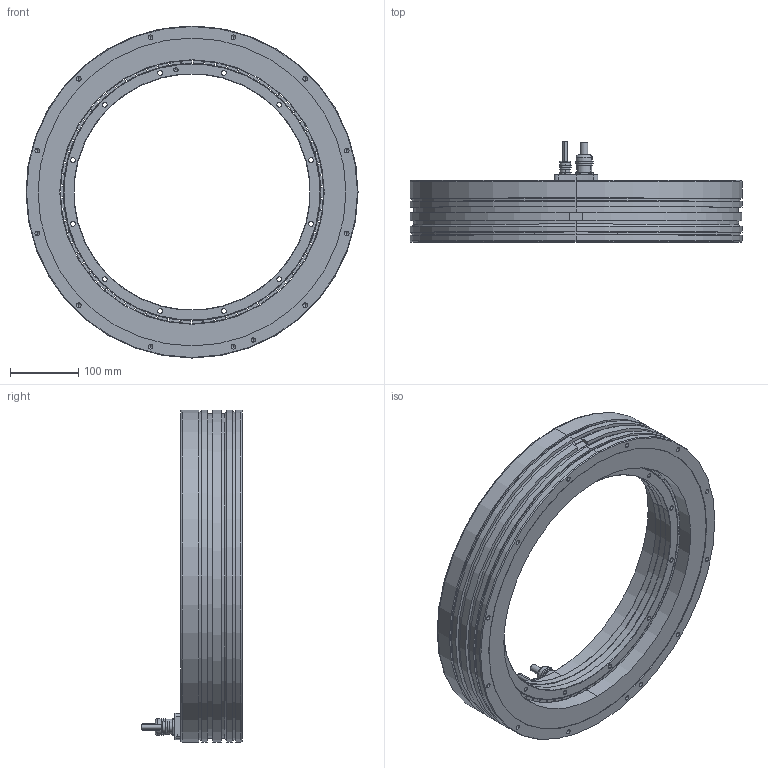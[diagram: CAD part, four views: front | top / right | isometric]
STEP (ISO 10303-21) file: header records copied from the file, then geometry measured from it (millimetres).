
FILE_DESCRIPTION (( 'STEP AP214' ), '1' );
FILE_NAME ('TORQUE KIT QMT LA 485-90-I-AX.STEP', '2025-10-02T13:25:45', ( '' ), ( '' ), 'SwSTEP 2.0', 'SolidWorks 2023', '' );
FILE_SCHEMA (( 'AUTOMOTIVE_DESIGN' ));
Length unit declared in the file: millimetre
Products named in the file (21): Cable Clamp; Housing; Cable; Stator; Rotor; Magnet; Cooling Ring; Resin; Cable Gland; Rotor Ring; Cable Connection; TORQUE KIT QMT LA 485-90-I-AX; Rotor Glued; Housing-BO; Screw
Assembly tree (90 placements, depth 6):
  TORQUE KIT QMT LA 485-90-I-AX
    Stator
      Stator
        Housing
          Housing-BO
            Cooling Ring
        Cable Connection
          Cable Connection
          Cable
          Cable
        Resin
      Cable Clamp
        Cable Clamp
        Cable Gland
        Cable Gland
      Screw  x3
    Rotor
      Rotor Glued
        Rotor Ring
        Magnet  x35
        Magnet  x35
Bounding box: 485 x 147.1 x 485 mm (x, y, z)
Volume: 6509184.8 mm3; surface area: 911297.6 mm2
Topology: 82 solids, 82 shells, 2904 faces, 6608 edges, 3605 vertices
Faces by surface type: cylinder 1246, sphere 700, plane 480, torus 310, cone 168
Entity records: 28974 total; most frequent: CARTESIAN_POINT 4244, DIRECTION 4182, ORIENTED_EDGE 3436, AXIS2_PLACEMENT_3D 1749, EDGE_CURVE 1718, VERTEX_POINT 1083, CIRCLE 906, EDGE_LOOP 885
